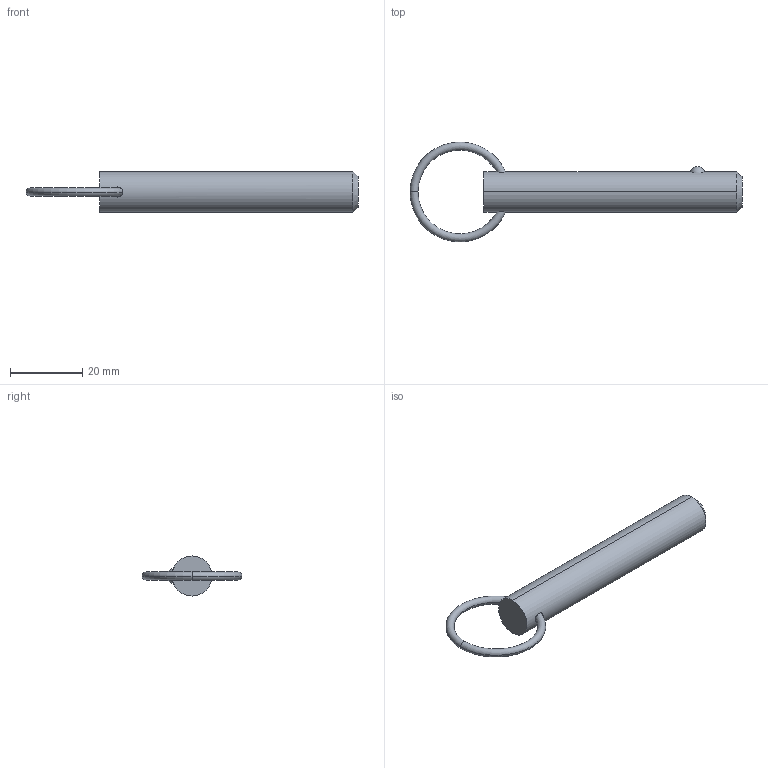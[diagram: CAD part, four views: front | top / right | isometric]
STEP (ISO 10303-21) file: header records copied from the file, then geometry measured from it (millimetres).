
FILE_DESCRIPTION (( 'STEP AP203' ), '1' );
FILE_NAME ('33012.W4320.step', '2024-11-01T14:11:19', ( '' ), ( '' ), 'SwSTEP 2.0', 'SolidWorks 2019', '' );
FILE_SCHEMA (( 'CONFIG_CONTROL_DESIGN' ));
Length unit declared in the file: millimetre
Products named in the file (3): 33012.W4320; Part2_33012.W4320; Part1_33012.W4320
Assembly tree (2 placements, depth 2):
  33012.W4320
    Part1_33012.W4320
    Part2_33012.W4320
Bounding box: 91.83 x 27.62 x 11.11 mm (x, y, z)
Volume: 7145.1 mm3; surface area: 3306.6 mm2
Topology: 2 solids, 2 shells, 16 faces, 31 edges, 18 vertices
Faces by surface type: torus 8, sphere 2, cone 2, cylinder 2, plane 2
Entity records: 863 total; most frequent: CARTESIAN_POINT 220, DIRECTION 88, ORIENTED_EDGE 62, AXIS2_PLACEMENT_3D 42, EDGE_CURVE 31, PERSON_AND_ORGANIZATION 26, CIRCLE 21, COORDINATED_UNIVERSAL_TIME_OFFSET 19
